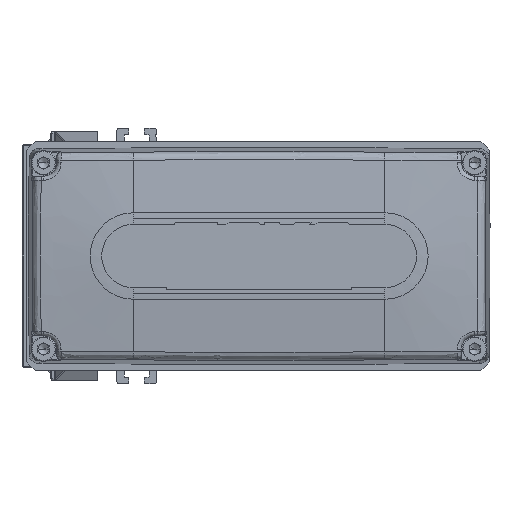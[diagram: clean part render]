
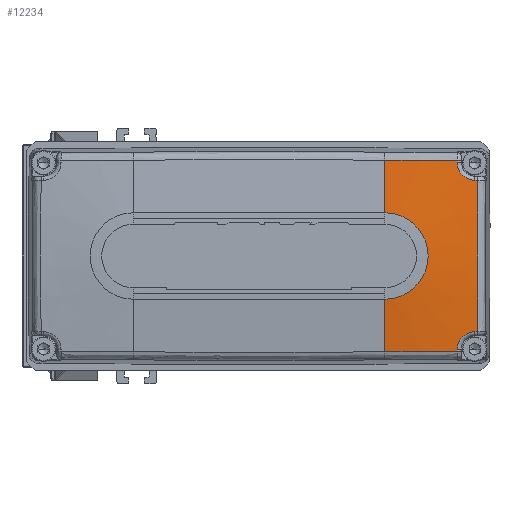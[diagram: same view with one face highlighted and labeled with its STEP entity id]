
A CAD part, left-side view. The second image highlights one B-rep face of the part: STEP entity #12234.
In plain terms, the highlighted conical face has half-angle 85 degrees and reference radius 26.329 mm.
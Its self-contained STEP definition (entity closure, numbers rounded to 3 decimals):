
#268 = CARTESIAN_POINT ( 'NONE',  ( -57.401, -52.653, -21.169 ) ) ;
#354 = CARTESIAN_POINT ( 'NONE',  ( -57.378, -57.155, -17.155 ) ) ;
#643 = CARTESIAN_POINT ( 'NONE',  ( -57.372, -52.653, 21.581 ) ) ;
#1297 = ORIENTED_EDGE ( 'NONE', *, *, #9302, .F. ) ;
#1724 = CARTESIAN_POINT ( 'NONE',  ( -57.372, -52.653, 21.581 ) ) ;
#1781 = CARTESIAN_POINT ( 'NONE',  ( -57.514, -54.87, 17.433 ) ) ;
#2034 = AXIS2_PLACEMENT_3D ( 'NONE', #3936, #33047, #22809 ) ;
#2484 = CARTESIAN_POINT ( 'NONE',  ( -57.401, -52.653, 21.169 ) ) ;
#2888 = CARTESIAN_POINT ( 'NONE',  ( -57.4, -56.829, -17.156 ) ) ;
#3235 = CARTESIAN_POINT ( 'NONE',  ( -57.411, -56.667, -17.156 ) ) ;
#3311 = B_SPLINE_CURVE_WITH_KNOTS ( 'NONE', 3,
 ( #43707, #28758, #19804, #1781, #30057, #23211 ),
 .UNSPECIFIED., .F., .F.,
 ( 4, 1, 1, 4 ),
 ( 0., 0.429, 0.714, 1. ),
 .UNSPECIFIED. ) ;
#3836 = CARTESIAN_POINT ( 'NONE',  ( -58.886, -36.25, -9.805 ) ) ;
#3904 = CARTESIAN_POINT ( 'NONE',  ( -57.442, -52.654, -20.574 ) ) ;
#3936 = CARTESIAN_POINT ( 'NONE',  ( -58.886, -36.25, 0. ) ) ;
#4041 = ORIENTED_EDGE ( 'NONE', *, *, #13889, .F. ) ;
#4372 = CARTESIAN_POINT ( 'NONE',  ( -57.372, -52.653, -21.581 ) ) ;
#5566 = CIRCLE ( 'NONE', #2034, 9.805 ) ;
#5739 = CARTESIAN_POINT ( 'NONE',  ( -57.378, -57.155, 17.155 ) ) ;
#6501 = ORIENTED_EDGE ( 'NONE', *, *, #25090, .F. ) ;
#6546 = VERTEX_POINT ( 'NONE', #39529 ) ;
#6654 = B_SPLINE_CURVE_WITH_KNOTS ( 'NONE', 3,
 ( #3235, #38074, #27879, #7324, #3904, #268 ),
 .UNSPECIFIED., .F., .F.,
 ( 4, 1, 1, 4 ),
 ( 0., 0.429, 0.714, 1. ),
 .UNSPECIFIED. ) ;
#7324 = CARTESIAN_POINT ( 'NONE',  ( -57.509, -52.93, -19.373 ) ) ;
#7327 = CARTESIAN_POINT ( 'NONE',  ( -57.378, -57.155, 17.155 ) ) ;
#7450 = EDGE_CURVE ( 'NONE', #20592, #22514, #26269, .T. ) ;
#8510 = VERTEX_POINT ( 'NONE', #16761 ) ;
#9302 = EDGE_CURVE ( 'NONE', #33077, #41647, #5566, .T. ) ;
#9454 = CARTESIAN_POINT ( 'NONE',  ( -57.657, -47.201, -21.64 ) ) ;
#9955 = DIRECTION ( 'NONE',  ( 0., 0., -1. ) ) ;
#10174 = CARTESIAN_POINT ( 'NONE',  ( -57.411, -56.667, -17.156 ) ) ;
#10199 = ORIENTED_EDGE ( 'NONE', *, *, #40832, .F. ) ;
#10248 = CARTESIAN_POINT ( 'NONE',  ( -57.378, -57.155, 17.155 ) ) ;
#10399 = CARTESIAN_POINT ( 'NONE',  ( -57.389, -56.992, -17.156 ) ) ;
#11099 = VERTEX_POINT ( 'NONE', #1724 ) ;
#11142 = CARTESIAN_POINT ( 'NONE',  ( -57.843, -36.25, 21.728 ) ) ;
#11335 = VERTEX_POINT ( 'NONE', #24503 ) ;
#11679 = CARTESIAN_POINT ( 'NONE',  ( -57.391, -52.653, -21.306 ) ) ;
#11780 = EDGE_CURVE ( 'NONE', #40064, #17633, #6654, .T. ) ;
#12234 = ADVANCED_FACE ( 'NONE', ( #27317 ), #38953, .T. ) ;
#12817 = ORIENTED_EDGE ( 'NONE', *, *, #42639, .F. ) ;
#13266 = CARTESIAN_POINT ( 'NONE',  ( -57.731, -57.27, 10.639 ) ) ;
#13301 = DIRECTION ( 'NONE',  ( 0.087, 0., 0.996 ) ) ;
#13889 = EDGE_CURVE ( 'NONE', #11335, #20592, #3311, .T. ) ;
#14401 = CARTESIAN_POINT ( 'NONE',  ( -57.4, -56.829, 17.156 ) ) ;
#15099 = CARTESIAN_POINT ( 'NONE',  ( -57.382, -52.653, -21.444 ) ) ;
#15440 = EDGE_LOOP ( 'NONE', ( #12817, #42655, #10199, #1297, #6501, #43111, #37913, #32124, #28892, #43059, #36991, #4041 ) ) ;
#15768 = CARTESIAN_POINT ( 'NONE',  ( -57.401, -52.653, -21.169 ) ) ;
#16183 = CARTESIAN_POINT ( 'NONE',  ( -57.372, -52.653, 21.581 ) ) ;
#16229 = EDGE_CURVE ( 'NONE', #22514, #6546, #34625, .T. ) ;
#16761 = CARTESIAN_POINT ( 'NONE',  ( -57.372, -52.653, -21.581 ) ) ;
#17555 = CARTESIAN_POINT ( 'NONE',  ( -57.846, -41.729, 21.694 ) ) ;
#17633 = VERTEX_POINT ( 'NONE', #15768 ) ;
#18501 = CARTESIAN_POINT ( 'NONE',  ( -57.389, -56.992, 17.156 ) ) ;
#19336 = AXIS2_PLACEMENT_3D ( 'NONE', #30942, #41173, #9955 ) ;
#19484 = CARTESIAN_POINT ( 'NONE',  ( -58.886, -36.25, 9.805 ) ) ;
#19500 = CARTESIAN_POINT ( 'NONE',  ( -57.372, -52.653, -21.581 ) ) ;
#19804 = CARTESIAN_POINT ( 'NONE',  ( -57.535, -53.181, 18.782 ) ) ;
#19905 = CARTESIAN_POINT ( 'NONE',  ( -57.643, -57.241, -12.272 ) ) ;
#20161 = CARTESIAN_POINT ( 'NONE',  ( -57.411, -56.667, -17.156 ) ) ;
#20592 = VERTEX_POINT ( 'NONE', #24154 ) ;
#21610 = CARTESIAN_POINT ( 'NONE',  ( -57.843, -36.25, 21.728 ) ) ;
#22115 = CARTESIAN_POINT ( 'NONE',  ( -57.391, -52.653, 21.306 ) ) ;
#22514 = VERTEX_POINT ( 'NONE', #10248 ) ;
#22536 = CARTESIAN_POINT ( 'NONE',  ( -58.886, -36.25, 9.805 ) ) ;
#22809 = DIRECTION ( 'NONE',  ( 0., -1., 0. ) ) ;
#23163 = B_SPLINE_CURVE_WITH_KNOTS ( 'NONE', 3,
 ( #16183, #25776, #22115, #2484 ),
 .UNSPECIFIED., .F., .F.,
 ( 4, 4 ),
 ( 0., 0.041 ),
 .UNSPECIFIED. ) ;
#23211 = CARTESIAN_POINT ( 'NONE',  ( -57.411, -56.667, 17.156 ) ) ;
#23687 = B_SPLINE_CURVE_WITH_KNOTS ( 'NONE', 3,
 ( #11142, #17555, #38929, #643 ),
 .UNSPECIFIED., .F., .F.,
 ( 4, 4 ),
 ( 0., 1. ),
 .UNSPECIFIED. ) ;
#24154 = CARTESIAN_POINT ( 'NONE',  ( -57.411, -56.667, 17.156 ) ) ;
#24503 = CARTESIAN_POINT ( 'NONE',  ( -57.401, -52.653, 21.169 ) ) ;
#24674 = CARTESIAN_POINT ( 'NONE',  ( -57.411, -56.667, 17.156 ) ) ;
#24775 = VECTOR ( 'NONE', #13301, 1000. ) ;
#25090 = EDGE_CURVE ( 'NONE', #30247, #33077, #39802, .T. ) ;
#25776 = CARTESIAN_POINT ( 'NONE',  ( -57.382, -52.653, 21.444 ) ) ;
#26269 = B_SPLINE_CURVE_WITH_KNOTS ( 'NONE', 3,
 ( #24674, #14401, #18501, #7327 ),
 .UNSPECIFIED., .F., .F.,
 ( 4, 4 ),
 ( 0., 0.049 ),
 .UNSPECIFIED. ) ;
#26667 = VECTOR ( 'NONE', #36411, 1000. ) ;
#26786 = LINE ( 'NONE', #19484, #24775 ) ;
#27317 = FACE_OUTER_BOUND ( 'NONE', #15440, .T. ) ;
#27879 = CARTESIAN_POINT ( 'NONE',  ( -57.537, -54.279, -17.684 ) ) ;
#28758 = CARTESIAN_POINT ( 'NONE',  ( -57.462, -52.655, 20.276 ) ) ;
#28892 = ORIENTED_EDGE ( 'NONE', *, *, #33373, .F. ) ;
#30057 = CARTESIAN_POINT ( 'NONE',  ( -57.45, -56.071, 17.157 ) ) ;
#30247 = VERTEX_POINT ( 'NONE', #41608 ) ;
#30942 = CARTESIAN_POINT ( 'NONE',  ( -57.44, -36.25, 0. ) ) ;
#32124 = ORIENTED_EDGE ( 'NONE', *, *, #11780, .F. ) ;
#32927 = CARTESIAN_POINT ( 'NONE',  ( -57.846, -41.728, -21.694 ) ) ;
#32959 = B_SPLINE_CURVE_WITH_KNOTS ( 'NONE', 3,
 ( #354, #10399, #2888, #10174 ),
 .UNSPECIFIED., .F., .F.,
 ( 4, 4 ),
 ( 0., 0.049 ),
 .UNSPECIFIED. ) ;
#33047 = DIRECTION ( 'NONE',  ( -1., 0., 0. ) ) ;
#33077 = VERTEX_POINT ( 'NONE', #3836 ) ;
#33373 = EDGE_CURVE ( 'NONE', #6546, #40064, #32959, .T. ) ;
#33554 = EDGE_CURVE ( 'NONE', #8510, #30247, #40535, .T. ) ;
#33557 = CARTESIAN_POINT ( 'NONE',  ( -58.114, -57.376, -0.825 ) ) ;
#34079 = EDGE_CURVE ( 'NONE', #43768, #11099, #23687, .T. ) ;
#34625 = B_SPLINE_CURVE_WITH_KNOTS ( 'NONE', 3,
 ( #5739, #13266, #33557, #19905, #41052 ),
 .UNSPECIFIED., .F., .F.,
 ( 4, 1, 4 ),
 ( 0., 0.572, 1. ),
 .UNSPECIFIED. ) ;
#36411 = DIRECTION ( 'NONE',  ( -0.087, 0., 0.996 ) ) ;
#36731 = B_SPLINE_CURVE_WITH_KNOTS ( 'NONE', 3,
 ( #43119, #11679, #15099, #4372 ),
 .UNSPECIFIED., .F., .F.,
 ( 4, 4 ),
 ( 0., 0.041 ),
 .UNSPECIFIED. ) ;
#36991 = ORIENTED_EDGE ( 'NONE', *, *, #7450, .F. ) ;
#37913 = ORIENTED_EDGE ( 'NONE', *, *, #41038, .F. ) ;
#38074 = CARTESIAN_POINT ( 'NONE',  ( -57.47, -55.774, -17.158 ) ) ;
#38929 = CARTESIAN_POINT ( 'NONE',  ( -57.657, -47.202, 21.64 ) ) ;
#38953 = CONICAL_SURFACE ( 'NONE', #19336, 26.329, 1.484 ) ;
#39529 = CARTESIAN_POINT ( 'NONE',  ( -57.378, -57.155, -17.155 ) ) ;
#39749 = CARTESIAN_POINT ( 'NONE',  ( -57.843, -36.25, -21.728 ) ) ;
#39802 = LINE ( 'NONE', #40037, #26667 ) ;
#40037 = CARTESIAN_POINT ( 'NONE',  ( -57.843, -36.25, -21.728 ) ) ;
#40064 = VERTEX_POINT ( 'NONE', #20161 ) ;
#40535 = B_SPLINE_CURVE_WITH_KNOTS ( 'NONE', 3,
 ( #19500, #9454, #32927, #39749 ),
 .UNSPECIFIED., .F., .F.,
 ( 4, 4 ),
 ( 0., 1. ),
 .UNSPECIFIED. ) ;
#40832 = EDGE_CURVE ( 'NONE', #41647, #43768, #26786, .T. ) ;
#41038 = EDGE_CURVE ( 'NONE', #17633, #8510, #36731, .T. ) ;
#41052 = CARTESIAN_POINT ( 'NONE',  ( -57.378, -57.155, -17.155 ) ) ;
#41173 = DIRECTION ( 'NONE',  ( 1., 0., 0. ) ) ;
#41608 = CARTESIAN_POINT ( 'NONE',  ( -57.843, -36.25, -21.728 ) ) ;
#41647 = VERTEX_POINT ( 'NONE', #22536 ) ;
#42639 = EDGE_CURVE ( 'NONE', #11099, #11335, #23163, .T. ) ;
#42655 = ORIENTED_EDGE ( 'NONE', *, *, #34079, .F. ) ;
#43059 = ORIENTED_EDGE ( 'NONE', *, *, #16229, .F. ) ;
#43111 = ORIENTED_EDGE ( 'NONE', *, *, #33554, .F. ) ;
#43119 = CARTESIAN_POINT ( 'NONE',  ( -57.401, -52.653, -21.169 ) ) ;
#43707 = CARTESIAN_POINT ( 'NONE',  ( -57.401, -52.653, 21.169 ) ) ;
#43768 = VERTEX_POINT ( 'NONE', #21610 ) ;
